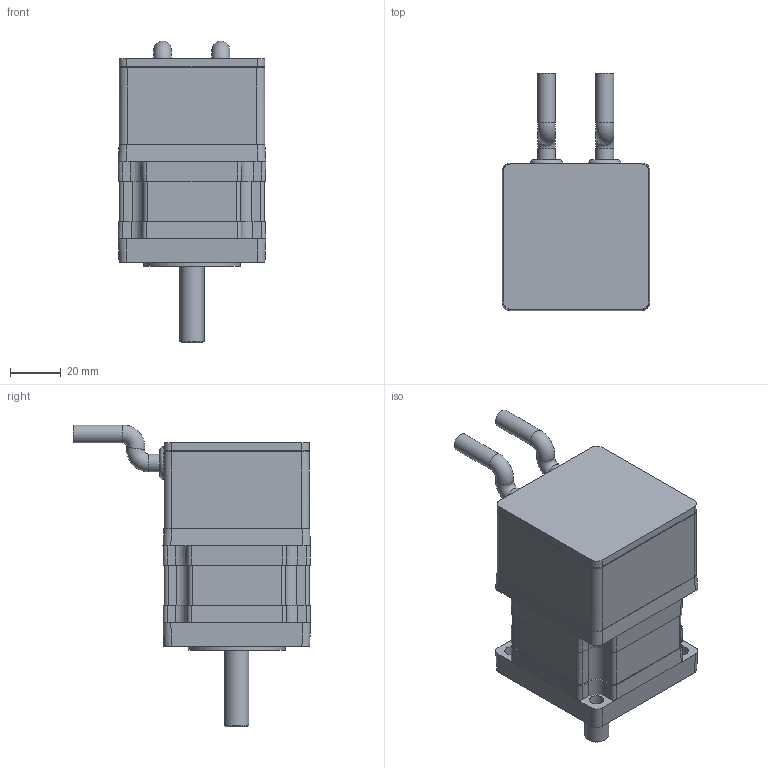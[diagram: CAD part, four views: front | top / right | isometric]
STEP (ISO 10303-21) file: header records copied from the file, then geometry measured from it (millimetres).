
FILE_DESCRIPTION((''),'2;1');
FILE_NAME('C:\CAD_work\Dummy_Modeling_Project_02-12-05\3D MODELS\BE230_CBL.stp','2005-12-20T15:17:37',('jevans'),(''),'Autodesk Inventor 10','Autodesk Inventor 10','');
FILE_SCHEMA(('AUTOMOTIVE_DESIGN { 1 0 10303 214 1 1 1 1 }'));
Length unit declared in the file: inch
Products named in the file (1): BE23_CBL
Bounding box: 57.95 x 93.11 x 118.6 mm (x, y, z)
Volume: 252072.2 mm3; surface area: 33585.9 mm2
Topology: 3 solids, 3 shells, 213 faces, 538 edges, 346 vertices
Faces by surface type: plane 106, cylinder 84, torus 9, cone 8, bspline 6
Full cylindrical faces by diameter (mm): 1.27 x2, 6.985 x4, 9.52 x1, 9.525 x1, 12.7 x2, 21.59 x1, 24.13 x1, 25.403 x1, 26 x1, 27.076 x1, 31.75 x3, 38.1 x1, 41.732 x1, 47.015 x1
Entity records: 6323 total; most frequent: CARTESIAN_POINT 1224, DIRECTION 1114, ORIENTED_EDGE 970, EDGE_CURVE 485, AXIS2_PLACEMENT_3D 421, VERTEX_POINT 333, EDGE_LOOP 282, VECTOR 272
